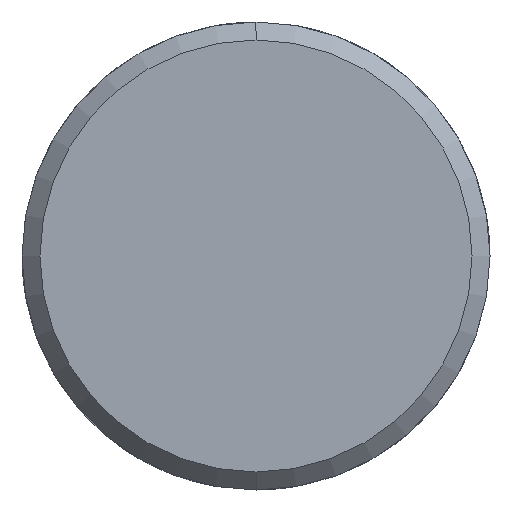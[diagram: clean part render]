
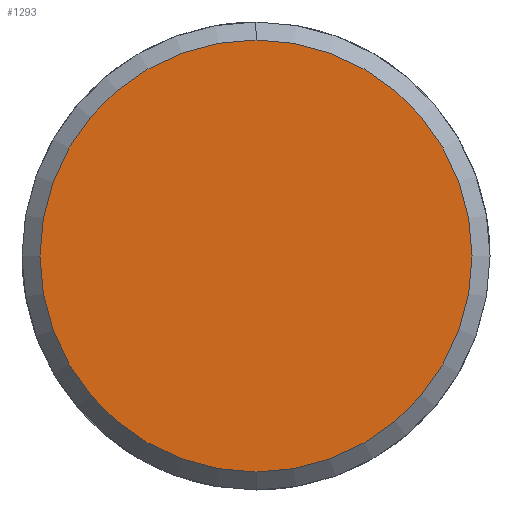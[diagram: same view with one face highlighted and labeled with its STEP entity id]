
A CAD part, left-side view. The second image highlights one B-rep face of the part: STEP entity #1293.
In plain terms, the highlighted planar face has unit normal (-1, 0, 0).
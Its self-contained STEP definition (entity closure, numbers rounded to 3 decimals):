
#1225=CARTESIAN_POINT('Vertex',(-5.,0.,-12.)) ;
#1228=CARTESIAN_POINT('Axis2P3D Location',(-5.,0.,0.)) ;
#1232=CARTESIAN_POINT('Vertex',(-5.,12.,0.)) ;
#1235=CARTESIAN_POINT('Axis2P3D Location',(-5.,0.,0.)) ;
#1239=CARTESIAN_POINT('Vertex',(-5.,0.,12.)) ;
#1261=CARTESIAN_POINT('Axis2P3D Location',(-5.,0.,0.)) ;
#1265=CARTESIAN_POINT('Vertex',(-5.,-12.,0.)) ;
#1268=CARTESIAN_POINT('Axis2P3D Location',(-5.,0.,0.)) ;
#1282=CARTESIAN_POINT('Axis2P3D Location',(-5.,0.,0.)) ;
#1229=DIRECTION('Axis2P3D Direction',(1.,0.,-0.)) ;
#1236=DIRECTION('Axis2P3D Direction',(1.,0.,-0.)) ;
#1262=DIRECTION('Axis2P3D Direction',(1.,0.,-0.)) ;
#1269=DIRECTION('Axis2P3D Direction',(1.,0.,-0.)) ;
#1283=DIRECTION('Axis2P3D Direction',(1.,0.,-0.)) ;
#1284=DIRECTION('Axis2P3D XDirection',(-0.,0.,-1.)) ;
#1230=AXIS2_PLACEMENT_3D('Circle Axis2P3D',#1228,#1229,$) ;
#1237=AXIS2_PLACEMENT_3D('Circle Axis2P3D',#1235,#1236,$) ;
#1263=AXIS2_PLACEMENT_3D('Circle Axis2P3D',#1261,#1262,$) ;
#1270=AXIS2_PLACEMENT_3D('Circle Axis2P3D',#1268,#1269,$) ;
#1285=AXIS2_PLACEMENT_3D('Plane Axis2P3D',#1282,#1283,#1284) ;
#1288=ORIENTED_EDGE('',*,*,#1234,.F.) ;
#1289=ORIENTED_EDGE('',*,*,#1272,.F.) ;
#1290=ORIENTED_EDGE('',*,*,#1267,.F.) ;
#1291=ORIENTED_EDGE('',*,*,#1241,.F.) ;
#1293=ADVANCED_FACE('351-16X76X180',(#1292),#1286,.F.) ;
#1231=CIRCLE('generated circle',#1230,12.) ;
#1238=CIRCLE('generated circle',#1237,12.) ;
#1264=CIRCLE('generated circle',#1263,12.) ;
#1271=CIRCLE('generated circle',#1270,12.) ;
#1234=EDGE_CURVE('',#1226,#1233,#1231,.T.) ;
#1241=EDGE_CURVE('',#1233,#1240,#1238,.T.) ;
#1267=EDGE_CURVE('',#1240,#1266,#1264,.T.) ;
#1272=EDGE_CURVE('',#1266,#1226,#1271,.T.) ;
#1287=EDGE_LOOP('',(#1288,#1289,#1290,#1291)) ;
#1292=FACE_OUTER_BOUND('',#1287,.T.) ;
#1286=PLANE('Plane',#1285) ;
#1226=VERTEX_POINT('',#1225) ;
#1233=VERTEX_POINT('',#1232) ;
#1240=VERTEX_POINT('',#1239) ;
#1266=VERTEX_POINT('',#1265) ;
